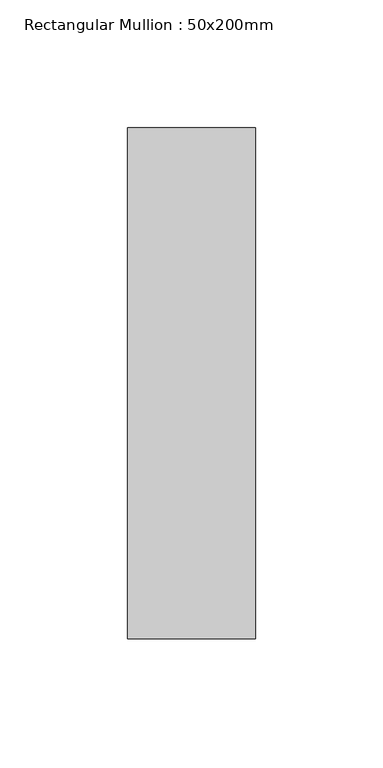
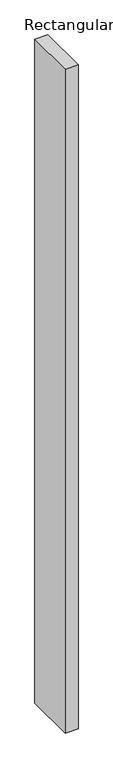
"""IFC4 building model written with IfcOpenShell, lengths in millimetres: member geometry, Rectangular Mullion : 50x200mm."""

from ifc_helpers import new_model, si_unit, frame, origin, place, context, project, spatial, polyline, outline, extrude, source, transform, mapped, element, save


def rectangular_mullion_50x200mm_44bc4c55(model_context):
    return source(origin(), model_context, "Body", "SweptSolid", [
        extrude(outline(polyline([(25.0, 100.0), (25.0, -100.0), (-25.0, -100.0), (-25.0, 100.0), (25.0, 100.0)])), frame((0.0, 0.0, -2690.0), z_axis=(0.0, 0.0, 1.0), x_axis=(1.0, 0.0, 0.0)), (0.0, 0.0, 1.0), 2690.0),
    ])


if __name__ == "__main__":
    model = new_model("IFC4")
    model_context = context("Model", 3, world=origin())
    ifc_project = project(units=[si_unit("LENGTHUNIT", "METRE", prefix="MILLI")], contexts=[model_context])
    site = spatial("IfcSite", under=ifc_project)
    building = spatial("IfcBuilding", under=site)
    placement = place(None, origin())
    rectangular_mullion_50x200mm_shape = rectangular_mullion_50x200mm_44bc4c55(model_context)
    element("IfcMember", 1, ObjectType="Rectangular Mullion : 50x200mm", at=placement, inside=building, context=model_context, shape_type="MappedRepresentation", body=[
        mapped(rectangular_mullion_50x200mm_shape, transform((0.0, 0.0, 0.0), x_axis=(1.0, 0.0, 0.0), y_axis=(0.0, 1.0, 0.0), z_axis=(0.0, 0.0, 1.0))),
    ])
    save(model, "model.ifc")
